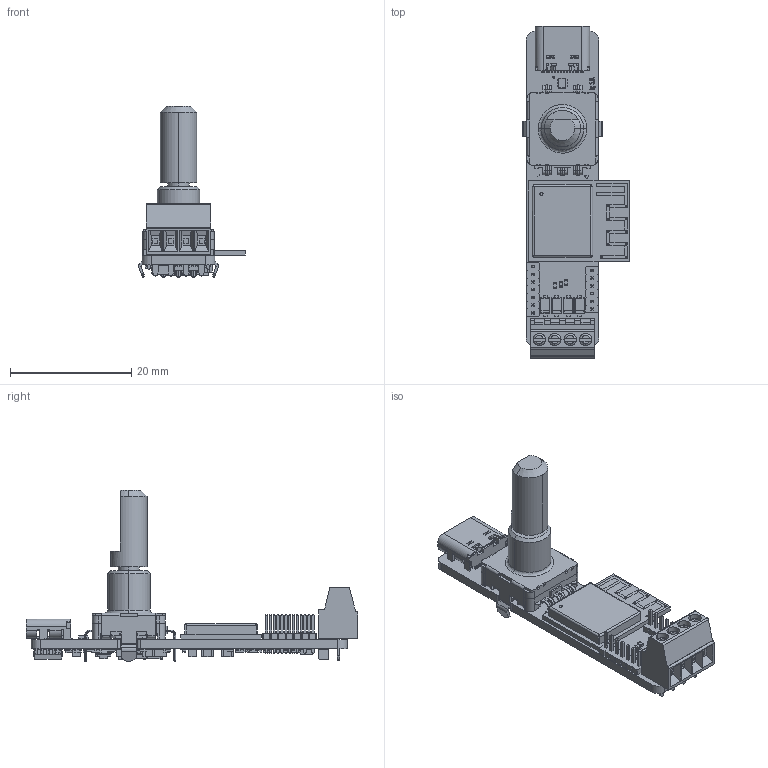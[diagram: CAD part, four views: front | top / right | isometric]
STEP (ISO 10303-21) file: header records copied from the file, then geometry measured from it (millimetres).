
FILE_DESCRIPTION(('carnation 1411 controller, revision unreleased, simplified: board outline, components, both silkscreens and the bare-gold mark; no inner or outer copper layers, vias, holes or soldermask'),'2;1');
FILE_NAME('carnation-1411-unreleased.step','2026-01-06T16:49:25',('avatarsd LLC'),('avatarsd LLC'),'','','');
FILE_SCHEMA(('AUTOMOTIVE_DESIGN { 1 0 10303 214 1 1 1 1 }'));
Length unit declared in the file: millimetre
Products named in the file (28): carnation 1411 controller; OSTVN04A150; ESP32-C6-MINI-1-N4; R_0402_1005Metric; USB4105-GF-A-120; USB4105xxx_USB4105-GF-A-120; D_SOD-123F; PinHeader_1x06_P1.27mm_Vertical; ec11e18244au; SOT-666; PinHeader_1x07_P1.27mm_Vertical; DFN1006-2; Compound; LDF; C_0805_2012Metric; SOT-23-5; C_0402_1005Metric; C_1206_3216Metric; SSOP-10-1EP_3.9x4.9mm_P1mm_EP2.1x3.3mm; SOT-23-6; Texas_DQK; LED_0402_1005Metric; R_1206_3216Metric; L_1008_2520Metric; led_controller_copper; led_controller_silkscreen; led_controller_PCB
Assembly tree (90 placements, depth 3):
  carnation 1411 controller
    OSTVN04A150
    ESP32-C6-MINI-1-N4
    R_0402_1005Metric  x21
    USB4105-GF-A-120
      USB4105xxx_USB4105-GF-A-120
    D_SOD-123F  x5
    PinHeader_1x06_P1.27mm_Vertical
    ec11e18244au
    SOT-666  x2
    PinHeader_1x07_P1.27mm_Vertical
    DFN1006-2  x13
      Compound
      LDF
    C_0805_2012Metric  x7
    SOT-23-5
    C_0402_1005Metric  x17
    C_1206_3216Metric  x3
    SSOP-10-1EP_3.9x4.9mm_P1mm_EP2.1x3.3mm
    SOT-23-6
    Texas_DQK  x3
    LED_0402_1005Metric
    R_1206_3216Metric
    L_1008_2520Metric
    led_controller_copper
    led_controller_silkscreen
    led_controller_silkscreen
    led_controller_PCB
Bounding box: 17.55 x 54.68 x 28.2 mm (x, y, z)
Volume: 2862.3 mm3; surface area: 6140.2 mm2
Topology: 282 solids, 334 shells, 6917 faces, 18556 edges, 12365 vertices
Faces by surface type: plane 5028, cylinder 1664, bspline 172, cone 41, torus 12
Full cylindrical faces by diameter (mm): 0.3 x3
Entity records: 311858 total; most frequent: CARTESIAN_POINT 62279, DIRECTION 43932, LINE 30453, VECTOR 30453, PCURVE 22888, DEFINITIONAL_REPRESENTATION 22888, ORIENTED_EDGE 22887, EDGE_CURVE 11854
